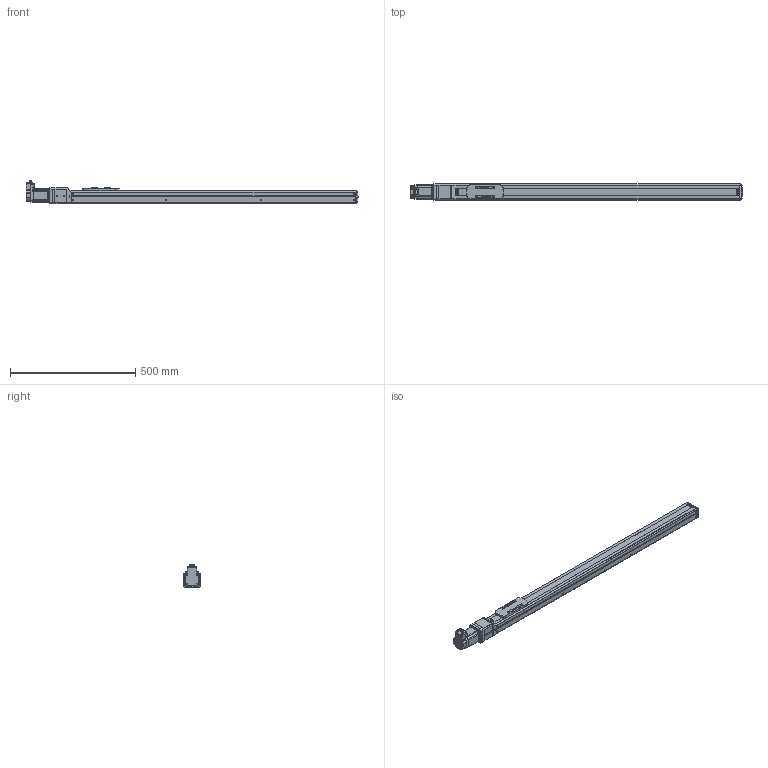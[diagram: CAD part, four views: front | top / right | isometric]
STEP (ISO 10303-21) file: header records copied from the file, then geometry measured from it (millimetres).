
FILE_DESCRIPTION(('FreeCAD Model'),'2;1');
FILE_NAME('Open CASCADE Shape Model','2023-08-02T11:08:47',('Author'),( ''),'Open CASCADE STEP processor 7.5','FreeCAD','Unknown');
FILE_SCHEMA(('AUTOMOTIVE_DESIGN { 1 0 10303 214 1 1 1 1 }'));
Length unit declared in the file: millimetre
Products named in the file (19): RSA1211; 1; 6; 5; 12; 2; 3; 9; 4; 11; 7; 13; 10; 8; Shapes; KSF6-20-0900-0-A0(0); KSF6---(Cover); KSF6-10-0900---(slider); KSF6-20-0900-A0 (0900A0No0)---(body)
Assembly tree (18 placements, depth 3):
  RSA1211
    1
    6
    5
    12
    2
    3
    9
    4
    11
    7
    13
    10
    8
    Shapes
    KSF6-20-0900-0-A0(0)
      KSF6---(Cover)
      KSF6-10-0900---(slider)
      KSF6-20-0900-A0 (0900A0No0)---(body)
Bounding box: 1323 x 66.4 x 93.17 mm (x, y, z)
Volume: 4128354 mm3; surface area: 432542.8 mm2
Topology: 17 solids, 17 shells, 1595 faces, 4251 edges, 2791 vertices
Faces by surface type: plane 1143, cylinder 314, cone 75, bspline 32, torus 27, revolution 4
Full cylindrical faces by diameter (mm): 2.113 x8, 2.6 x4, 3 x2, 3.242 x5, 4.134 x4, 4.5 x2, 5 x1, 5.5 x18, 6.5 x4, 9 x1, 9.5 x12, 12 x1, 15.5 x1, 17 x1, 44 x1, 50 x1
Entity records: 112156 total; most frequent: CARTESIAN_POINT 26418, DIRECTION 15948, LINE 10821, VECTOR 10821, ORIENTED_EDGE 8462, PCURVE 8462, DEFINITIONAL_REPRESENTATION 8462, EDGE_CURVE 4231
